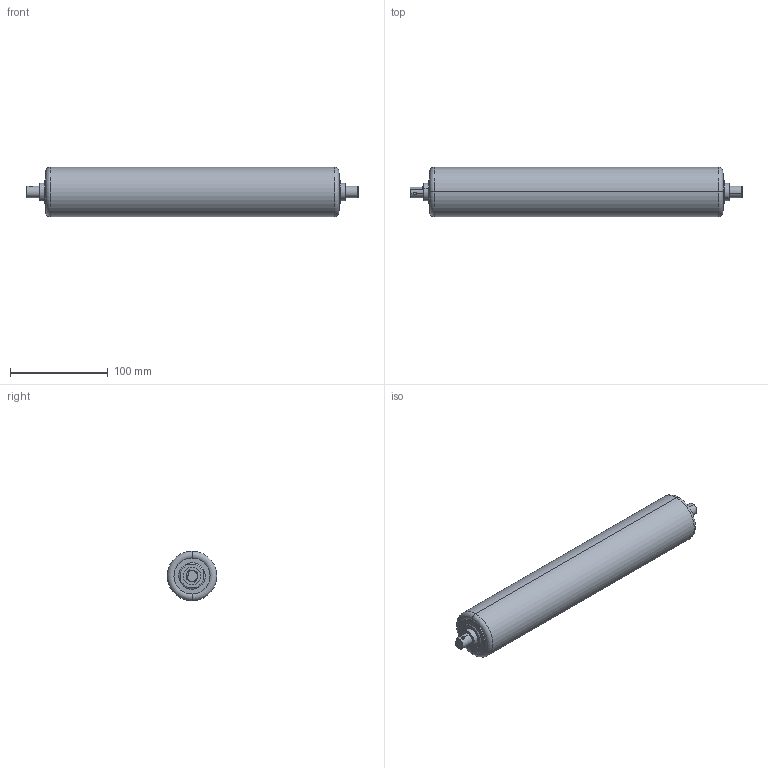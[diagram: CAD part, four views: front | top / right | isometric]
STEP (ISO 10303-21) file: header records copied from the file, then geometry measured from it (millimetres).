
FILE_DESCRIPTION (( 'STEP AP203' ), '1' );
FILE_NAME ('HR-5015P(5015).STEP', '2022-03-25T01:31:13', ( 'Microsoft' ), ( 'Microsoft' ), 'SwSTEP 2.0', 'SolidWorks 2020', '' );
FILE_SCHEMA (( 'CONFIG_CONTROL_DESIGN' ));
Length unit declared in the file: millimetre
Products named in the file (4): HR-5015P-粣創; HR-5015P-粣; HR-5015P(5015); HR-5015P-芠极
Assembly tree (4 placements, depth 2):
  HR-5015P(5015)
    HR-5015P-芠极
    HR-5015P-粣
    HR-5015P-粣創  x2
Bounding box: 340 x 50.8 x 50.8 mm (x, y, z)
Volume: 129496.3 mm3; surface area: 121326.9 mm2
Topology: 4 solids, 6 shells, 116 faces, 237 edges, 136 vertices
Faces by surface type: cylinder 50, torus 26, cone 21, plane 19
Entity records: 2690 total; most frequent: CARTESIAN_POINT 459, DIRECTION 444, ORIENTED_EDGE 334, AXIS2_PLACEMENT_3D 195, EDGE_CURVE 167, CIRCLE 107, VERTEX_POINT 94, EDGE_LOOP 89
